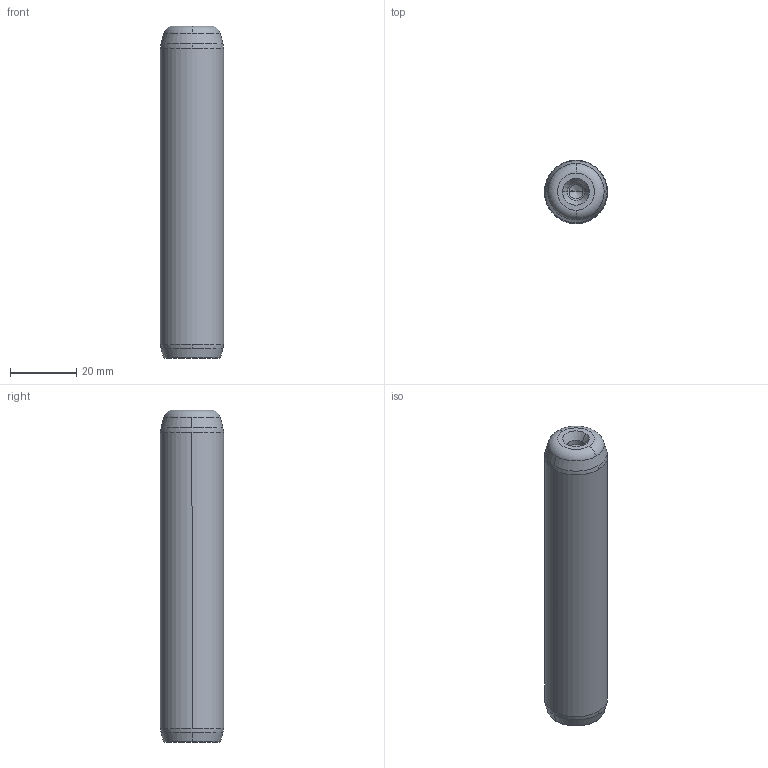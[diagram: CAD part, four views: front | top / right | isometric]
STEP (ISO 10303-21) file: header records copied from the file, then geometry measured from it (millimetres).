
FILE_DESCRIPTION((''),'2;1');
FILE_NAME('P10_019_100.stp','2008-12-23T10:43:03',(''),(''),'Mechanical Desktop 2009','Mechanical Desktop 2009',', , ');
FILE_SCHEMA(('CONFIG_CONTROL_DESIGN'));
Length unit declared in the file: millimetre
Products named in the file (5): Product; ProductAA; blmdl1; ProductA; blmdl1A
Assembly tree (2 placements, depth 3):
  Product
    ProductAA
      blmdl1
  ProductA
  blmdl1A
Bounding box: 19 x 19 x 100 mm (x, y, z)
Volume: 27626.3 mm3; surface area: 6557.6 mm2
Topology: 1 solids, 1 shells, 26 faces, 66 edges, 41 vertices
Faces by surface type: cone 10, cylinder 6, torus 4, bspline 4, plane 2
Entity records: 1100 total; most frequent: CARTESIAN_POINT 238, DIRECTION 162, ORIENTED_EDGE 128, AXIS2_PLACEMENT_3D 73, EDGE_CURVE 64, CIRCLE 48, VERTEX_POINT 41, EDGE_LOOP 27
